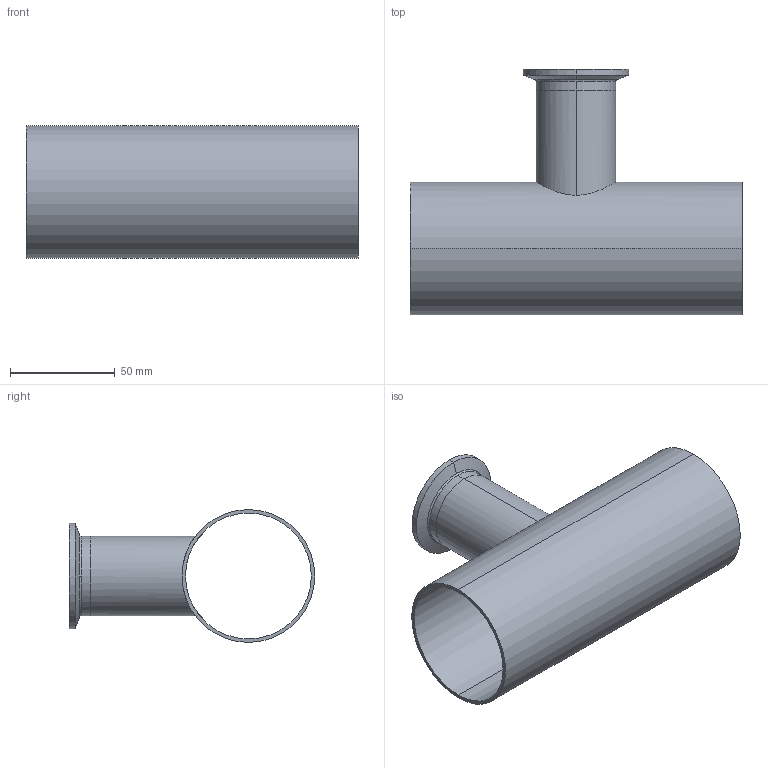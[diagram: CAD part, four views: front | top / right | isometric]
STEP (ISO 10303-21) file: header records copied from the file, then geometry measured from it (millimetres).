
FILE_DESCRIPTION (( 'STEP AP214' ), '1' );
FILE_NAME ('TE7RWWC6L2.5x1.5-...STEP', '2016-05-23T08:31:09', ( 'eran' ), ( '' ), 'SwSTEP 2.0', 'SolidWorks 2016', '' );
FILE_SCHEMA (( 'AUTOMOTIVE_DESIGN' ));
Length unit declared in the file: millimetre
Products named in the file (1): TE7RWWC6L2.5x1.5-..
Bounding box: 158.8 x 117.45 x 63.5 mm (x, y, z)
Volume: 63163.1 mm3; surface area: 75564 mm2
Topology: 2 solids, 2 shells, 36 faces, 88 edges, 58 vertices
Faces by surface type: cylinder 14, bspline 10, plane 6, cone 6
Entity records: 1974 total; most frequent: CARTESIAN_POINT 1069, DIRECTION 190, ORIENTED_EDGE 176, EDGE_CURVE 88, AXIS2_PLACEMENT_3D 85, VERTEX_POINT 58, CIRCLE 58, EDGE_LOOP 44
